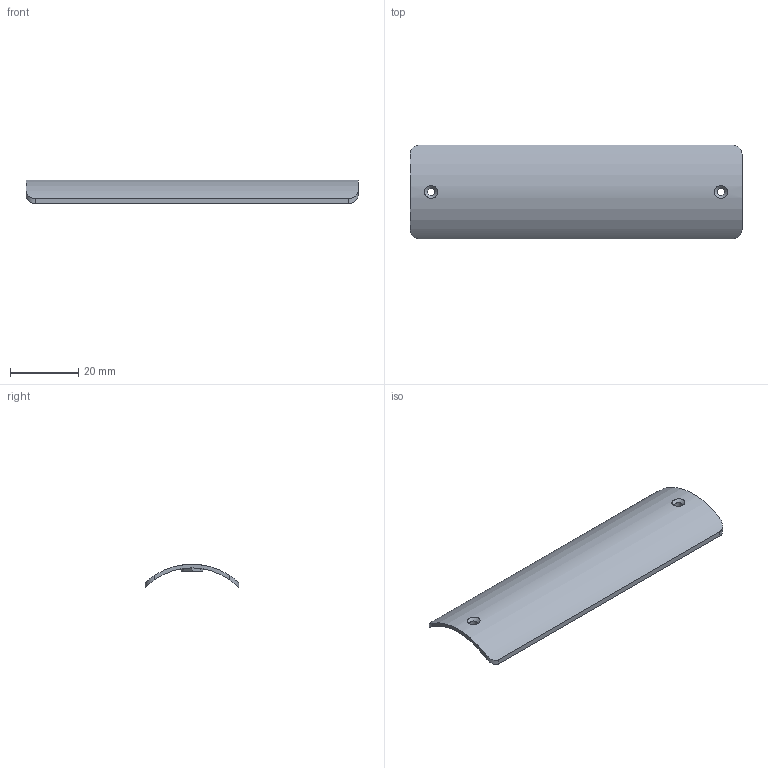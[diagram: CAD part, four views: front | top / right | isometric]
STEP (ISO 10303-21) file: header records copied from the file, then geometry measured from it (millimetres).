
FILE_DESCRIPTION(('SkyG Speed 90B - revision C6B-7 - 2026-10-08','HF-front-hatch'),'2;1');
FILE_NAME('HF-front-hatch_C6B-7','2026-10-08T18:09:16',('Author'),( 'Open CASCADE'),'Open CASCADE STEP processor 7.9','Open CASCADE 7.9' ,'Unknown');
FILE_SCHEMA(('AUTOMOTIVE_DESIGN { 1 0 10303 214 1 1 1 1 }'));
Length unit declared in the file: millimetre
Products named in the file (1): HF-front-hatch C6B-7
Bounding box: 97.4 x 27.4 x 6.98 mm (x, y, z)
Volume: 3293.1 mm3; surface area: 6316.6 mm2
Topology: 1 solids, 1 shells, 30 faces, 76 edges, 50 vertices
Faces by surface type: cylinder 14, plane 14, cone 2
Full cylindrical faces by diameter (mm): 2.2 x2
Entity records: 4108 total; most frequent: CARTESIAN_POINT 2687, DIRECTION 224, ORIENTED_EDGE 152, PCURVE 152, DEFINITIONAL_REPRESENTATION 152, LINE 96, VECTOR 96, B_SPLINE_CURVE_WITH_KNOTS 86
